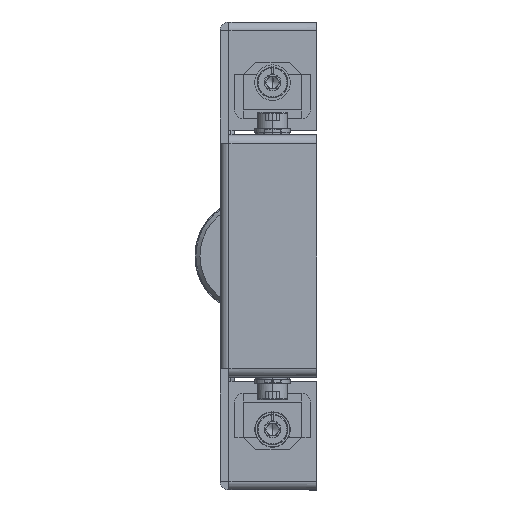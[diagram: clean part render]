
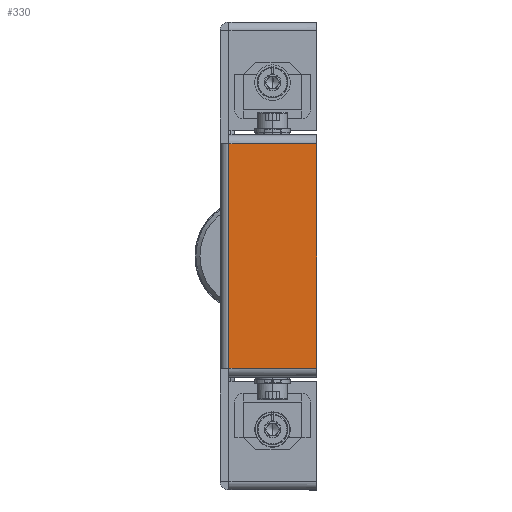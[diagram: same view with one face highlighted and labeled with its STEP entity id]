
A CAD part, left-side view. The second image highlights one B-rep face of the part: STEP entity #330.
In plain terms, the highlighted planar face has unit normal (-1, 0, 0).
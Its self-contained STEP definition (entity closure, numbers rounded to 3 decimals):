
#163 = VERTEX_POINT ( 'NONE', #12063 ) ;
#191 = VERTEX_POINT ( 'NONE', #8369 ) ;
#203 = VERTEX_POINT ( 'NONE', #12136 ) ;
#255 = ORIENTED_EDGE ( 'NONE', *, *, #883, .F. ) ;
#280 = EDGE_LOOP ( 'NONE', ( #329, #348, #902, #255 ) ) ;
#282 = EDGE_CURVE ( 'NONE', #191, #1475, #12240, .T. ) ;
#326 = EDGE_CURVE ( 'NONE', #203, #191, #12078, .T. ) ;
#329 = ORIENTED_EDGE ( 'NONE', *, *, #326, .T. ) ;
#330 = ADVANCED_FACE ( 'NONE', ( #12396 ), #12397, .T. ) ;
#348 = ORIENTED_EDGE ( 'NONE', *, *, #282, .T. ) ;
#883 = EDGE_CURVE ( 'NONE', #203, #163, #13266, .T. ) ;
#891 = EDGE_CURVE ( 'NONE', #163, #1475, #13321, .T. ) ;
#902 = ORIENTED_EDGE ( 'NONE', *, *, #891, .F. ) ;
#1475 = VERTEX_POINT ( 'NONE', #14211 ) ;
#8369 = CARTESIAN_POINT ( 'NONE',  ( -29., -12., 13.9 ) ) ;
#11828 = CARTESIAN_POINT ( 'NONE',  ( -29., -12., -14. ) ) ;
#12063 = CARTESIAN_POINT ( 'NONE',  ( -29., -1.1, -13.9 ) ) ;
#12078 = LINE ( 'NONE', #11828, #12341 ) ;
#12136 = CARTESIAN_POINT ( 'NONE',  ( -29., -12., -13.9 ) ) ;
#12240 = LINE ( 'NONE', #12300, #12294 ) ;
#12293 = DIRECTION ( 'NONE',  ( 0., 1., 0. ) ) ;
#12294 = VECTOR ( 'NONE', #12293, 1000. ) ;
#12300 = CARTESIAN_POINT ( 'NONE',  ( -29., -12., 13.9 ) ) ;
#12341 = VECTOR ( 'NONE', #12348, 1000. ) ;
#12348 = DIRECTION ( 'NONE',  ( 0., 0., 1. ) ) ;
#12385 = DIRECTION ( 'NONE',  ( 0., 1., 0. ) ) ;
#12386 = DIRECTION ( 'NONE',  ( -1., 0., 0. ) ) ;
#12387 = CARTESIAN_POINT ( 'NONE',  ( -29., -1., 0. ) ) ;
#12388 = AXIS2_PLACEMENT_3D ( 'NONE', #12387, #12386, #12385 ) ;
#12396 = FACE_OUTER_BOUND ( 'NONE', #280, .T. ) ;
#12397 = PLANE ( 'NONE',  #12388 ) ;
#13265 = CARTESIAN_POINT ( 'NONE',  ( -29., -12., -13.9 ) ) ;
#13266 = LINE ( 'NONE', #13265, #13328 ) ;
#13318 = DIRECTION ( 'NONE',  ( 0., 0., 1. ) ) ;
#13319 = VECTOR ( 'NONE', #13318, 1000. ) ;
#13320 = CARTESIAN_POINT ( 'NONE',  ( -29., -1.1, 0. ) ) ;
#13321 = LINE ( 'NONE', #13320, #13319 ) ;
#13327 = DIRECTION ( 'NONE',  ( 0., 1., 0. ) ) ;
#13328 = VECTOR ( 'NONE', #13327, 1000. ) ;
#14211 = CARTESIAN_POINT ( 'NONE',  ( -29., -1.1, 13.9 ) ) ;
